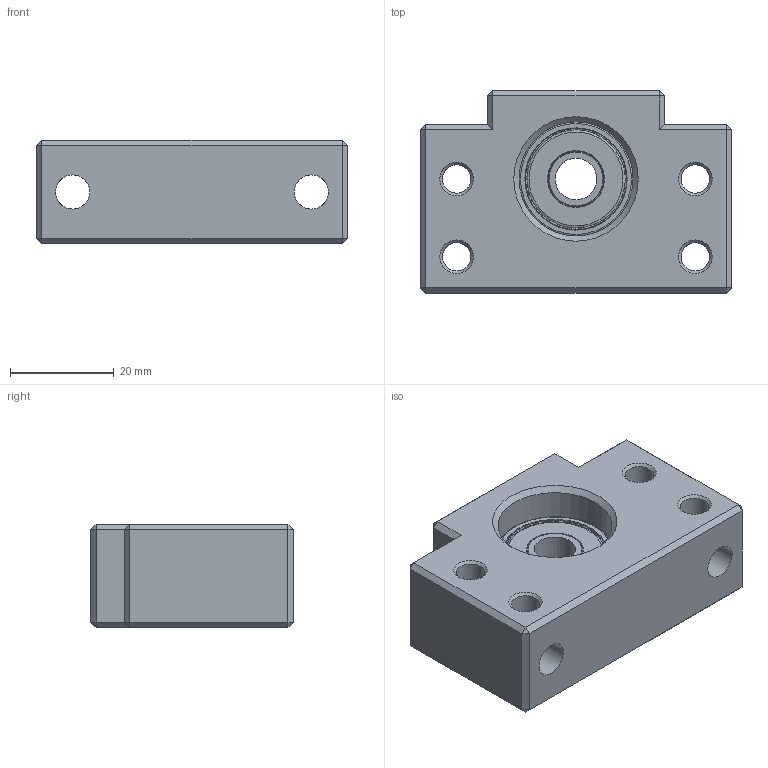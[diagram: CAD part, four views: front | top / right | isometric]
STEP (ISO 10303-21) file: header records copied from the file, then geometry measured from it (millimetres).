
FILE_DESCRIPTION(('STEP AP214'), '1');
FILE_NAME('BF10', '', ('UNSPECIFIED'), ('UNSPECIFIED'), 'ASCON STEP Converter 1.3', 'ASCON Math Kernel', '');
FILE_SCHEMA(('AUTOMOTIVE_DESIGN { 1 0 10303 214 3 1 1}'));
Length unit declared in the file: millimetre
Bounding box: 60 x 39 x 20 mm (x, y, z)
Volume: 32895.1 mm3; surface area: 13429.6 mm2
Topology: 12 solids, 12 shells, 141 faces, 320 edges, 191 vertices
Faces by surface type: plane 58, torus 28, cylinder 27, cone 14, sphere 14
Full cylindrical faces by diameter (mm): 5.5 x8, 6.6 x2, 8 x1, 10.55 x2, 10.8 x2, 10.97 x2, 12.15 x2, 18.15 x2, 19.5 x4, 22 x2
Entity records: 10384 total; most frequent: CARTESIAN_POINT 6480, DIRECTION 522, ORIENTED_EDGE 424, EDGE_LOOP 246, AXIS2_PLACEMENT_3D 218, EDGE_CURVE 212, VERTEX_POINT 170, COLOUR_RGB 153
